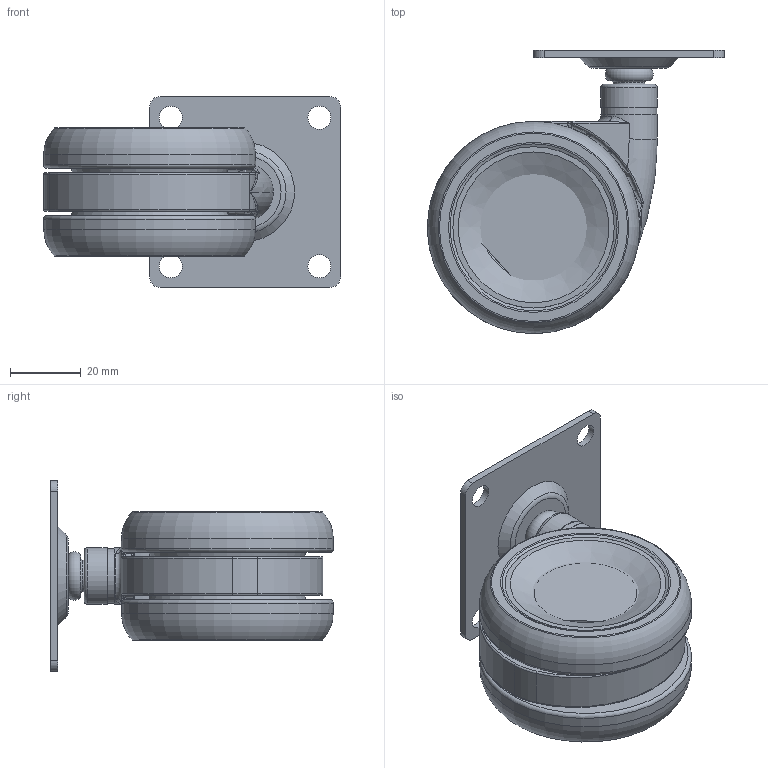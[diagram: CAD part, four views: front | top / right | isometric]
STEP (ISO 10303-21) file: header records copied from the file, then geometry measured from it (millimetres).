
FILE_DESCRIPTION (( 'STEP AP203' ), '1' );
FILE_NAME ('K09U16(プレート).STEP', '2025-04-11T02:05:11', ( '' ), ( '' ), 'SwSTEP 2.0', 'SolidWorks 2025', '' );
FILE_SCHEMA (( 'CONFIG_CONTROL_DESIGN' ));
Length unit declared in the file: millimetre
Products named in the file (4): プレート縦軸; 本体; K09U16(プレート); TPU車輪
Assembly tree (4 placements, depth 2):
  K09U16(プレート)
    本体
    プレート縦軸
    TPU車輪  x2
Bounding box: 84 x 80 x 54 mm (x, y, z)
Volume: 77876.9 mm3; surface area: 58230.2 mm2
Topology: 8 solids, 9 shells, 470 faces, 1349 edges, 825 vertices
Faces by surface type: plane 218, cylinder 105, torus 66, cone 47, bspline 30, sphere 4
Full cylindrical faces by diameter (mm): 2.3 x45, 4.8 x1, 6.5 x4, 7.7 x1, 9 x2, 9.4 x2, 10 x1, 15.6 x1, 16 x2, 34 x2, 34.95 x1, 35 x1, 36 x4, 36.4 x4, 38.35 x3, 44.15 x3, 46 x2, 46.95 x1, 47 x1, 54.897 x4
Entity records: 13868 total; most frequent: CARTESIAN_POINT 5161, DIRECTION 1712, ORIENTED_EDGE 1558, EDGE_CURVE 779, AXIS2_PLACEMENT_3D 771, EDGE_LOOP 627, VERTEX_POINT 552, FACE_OUTER_BOUND 463
